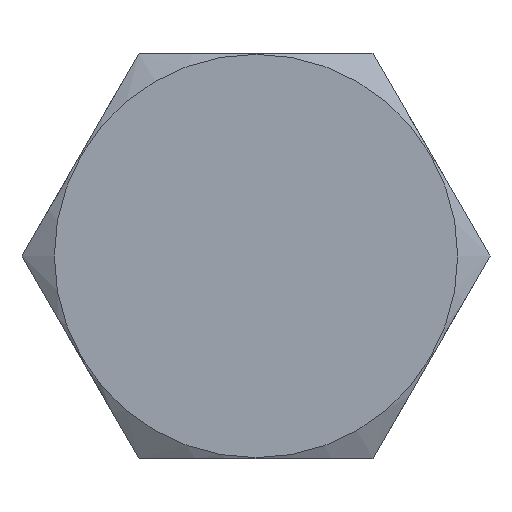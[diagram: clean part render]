
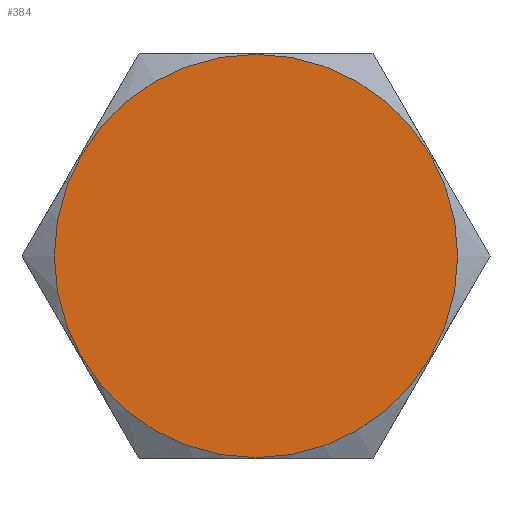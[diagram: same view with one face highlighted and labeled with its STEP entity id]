
A CAD part, front view. The second image highlights one B-rep face of the part: STEP entity #384.
In plain terms, the highlighted planar face has unit normal (0, -1, 0).
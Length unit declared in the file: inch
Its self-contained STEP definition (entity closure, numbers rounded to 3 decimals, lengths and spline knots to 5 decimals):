
#48=PLANE('',#439);
#70=FACE_OUTER_BOUND('',#95,.T.);
#95=EDGE_LOOP('',(#349));
#154=CIRCLE('',#438,0.37313);
#191=VERTEX_POINT('',#791);
#245=EDGE_CURVE('',#191,#191,#154,.T.);
#349=ORIENTED_EDGE('',*,*,#245,.F.);
#384=ADVANCED_FACE('',(#70),#48,.T.);
#438=AXIS2_PLACEMENT_3D('',#792,#533,#534);
#439=AXIS2_PLACEMENT_3D('',#794,#536,#537);
#533=DIRECTION('center_axis',(0.,1.,0.));
#534=DIRECTION('ref_axis',(0.,0.,1.));
#536=DIRECTION('center_axis',(0.,-1.,0.));
#537=DIRECTION('ref_axis',(0.,0.,-1.));
#791=CARTESIAN_POINT('',(0.,0.,-0.37313));
#792=CARTESIAN_POINT('Origin',(0.,0.,0.));
#794=CARTESIAN_POINT('Origin',(0.,0.,0.));
